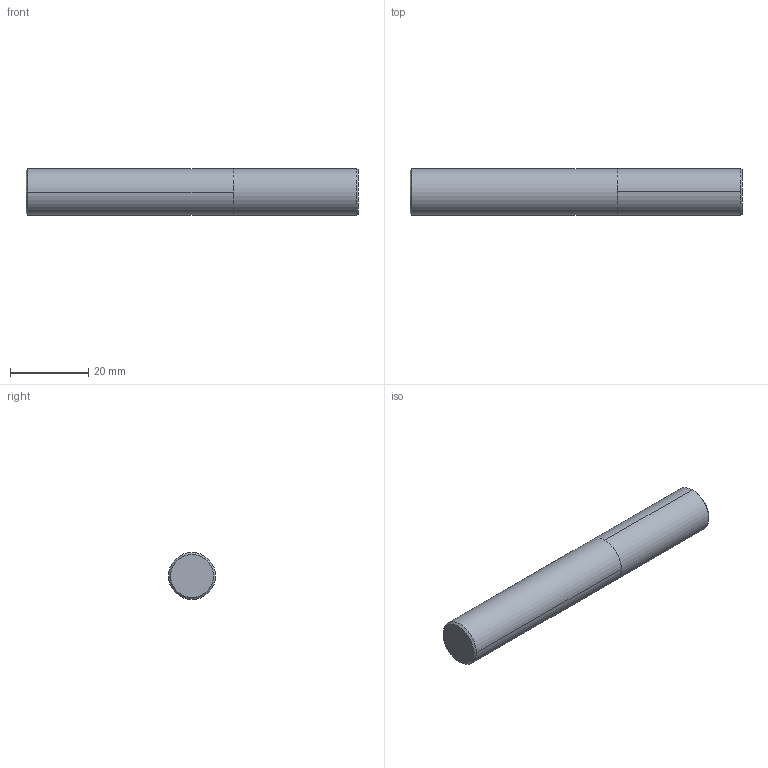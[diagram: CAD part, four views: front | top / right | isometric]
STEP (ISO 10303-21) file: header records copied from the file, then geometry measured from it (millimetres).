
FILE_DESCRIPTION (( 'STEP AP203' ), '1' );
FILE_NAME ('03-1762.STEP', '2021-09-10T07:21:57', ( 'USER' ), ( 'Hewlett-Packard Company' ), 'SwSTEP 2.0', 'SolidWorks 2014', '' );
FILE_SCHEMA (( 'CONFIG_CONTROL_DESIGN' ));
Length unit declared in the file: millimetre
Products named in the file (1): 03-1762
Bounding box: 85 x 12 x 12 mm (x, y, z)
Volume: 9606.4 mm3; surface area: 3637.6 mm2
Topology: 2 solids, 2 shells, 12 faces, 20 edges, 12 vertices
Faces by surface type: cylinder 4, cone 4, plane 4
Entity records: 359 total; most frequent: DIRECTION 58, CARTESIAN_POINT 45, ORIENTED_EDGE 40, AXIS2_PLACEMENT_3D 25, EDGE_CURVE 20, ADVANCED_FACE 12, FACE_OUTER_BOUND 12, CIRCLE 12
